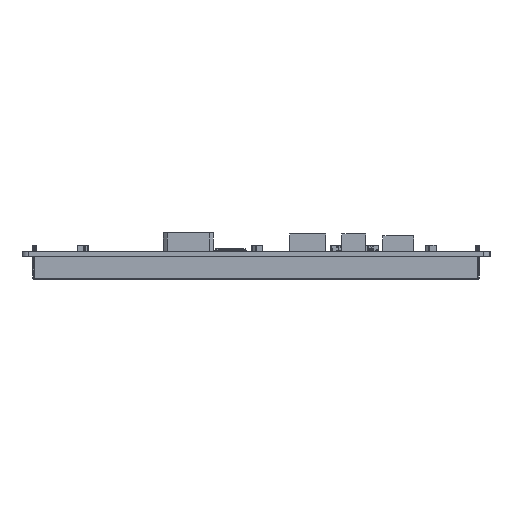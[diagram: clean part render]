
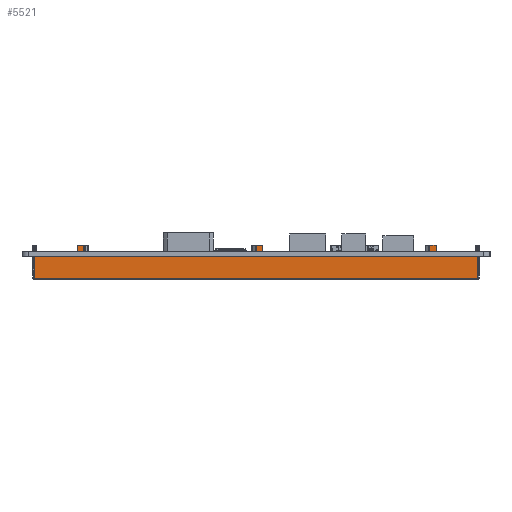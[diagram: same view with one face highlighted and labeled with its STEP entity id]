
A CAD part, left-side view. The second image highlights one B-rep face of the part: STEP entity #5521.
In plain terms, the highlighted planar face has unit normal (-1, 0, 0).
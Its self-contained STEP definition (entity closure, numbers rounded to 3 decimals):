
#5521=ADVANCED_FACE('',(#9663),#7430,.F.);
#7430=PLANE('',#51177);
#9663=FACE_OUTER_BOUND('',#12064,.T.);
#12064=EDGE_LOOP('',(#24423,#24424,#24425,#24426,#24427,#24428,#24429,#24430,
#24431,#24432,#24433,#24434,#24435,#24436,#24437,#24438,#24439,#24440,#24441,
#24442,#24443,#24444));
#24423=ORIENTED_EDGE('',*,*,#36199,.F.);
#24424=ORIENTED_EDGE('',*,*,#36200,.T.);
#24425=ORIENTED_EDGE('',*,*,#36201,.T.);
#24426=ORIENTED_EDGE('',*,*,#36196,.T.);
#24427=ORIENTED_EDGE('',*,*,#36202,.F.);
#24428=ORIENTED_EDGE('',*,*,#36203,.F.);
#24429=ORIENTED_EDGE('',*,*,#36204,.T.);
#24430=ORIENTED_EDGE('',*,*,#36205,.T.);
#24431=ORIENTED_EDGE('',*,*,#36206,.T.);
#24432=ORIENTED_EDGE('',*,*,#36192,.T.);
#24433=ORIENTED_EDGE('',*,*,#36207,.F.);
#24434=ORIENTED_EDGE('',*,*,#36208,.F.);
#24435=ORIENTED_EDGE('',*,*,#36209,.T.);
#24436=ORIENTED_EDGE('',*,*,#36210,.T.);
#24437=ORIENTED_EDGE('',*,*,#36211,.T.);
#24438=ORIENTED_EDGE('',*,*,#36188,.T.);
#24439=ORIENTED_EDGE('',*,*,#36212,.F.);
#24440=ORIENTED_EDGE('',*,*,#36213,.T.);
#24441=ORIENTED_EDGE('',*,*,#36214,.F.);
#24442=ORIENTED_EDGE('',*,*,#36215,.F.);
#24443=ORIENTED_EDGE('',*,*,#36216,.T.);
#24444=ORIENTED_EDGE('',*,*,#36186,.T.);
#29699=VERTEX_POINT('',#76251);
#29701=VERTEX_POINT('',#76255);
#29702=VERTEX_POINT('',#76259);
#29704=VERTEX_POINT('',#76262);
#29706=VERTEX_POINT('',#76268);
#29708=VERTEX_POINT('',#76271);
#29710=VERTEX_POINT('',#76277);
#29712=VERTEX_POINT('',#76280);
#29714=VERTEX_POINT('',#76286);
#29715=VERTEX_POINT('',#76288);
#29716=VERTEX_POINT('',#76291);
#29717=VERTEX_POINT('',#76293);
#29718=VERTEX_POINT('',#76295);
#29719=VERTEX_POINT('',#76297);
#29720=VERTEX_POINT('',#76300);
#29721=VERTEX_POINT('',#76302);
#29722=VERTEX_POINT('',#76304);
#29723=VERTEX_POINT('',#76306);
#29724=VERTEX_POINT('',#76309);
#29725=VERTEX_POINT('',#76311);
#29726=VERTEX_POINT('',#76313);
#29727=VERTEX_POINT('',#76315);
#36186=EDGE_CURVE('',#29699,#29701,#42060,.T.);
#36188=EDGE_CURVE('',#29704,#29702,#42062,.T.);
#36192=EDGE_CURVE('',#29708,#29706,#42066,.T.);
#36196=EDGE_CURVE('',#29712,#29710,#42070,.T.);
#36199=EDGE_CURVE('',#29714,#29701,#42073,.T.);
#36200=EDGE_CURVE('',#29714,#29715,#42074,.T.);
#36201=EDGE_CURVE('',#29715,#29712,#42075,.T.);
#36202=EDGE_CURVE('',#29716,#29710,#42076,.T.);
#36203=EDGE_CURVE('',#29717,#29716,#42077,.T.);
#36204=EDGE_CURVE('',#29717,#29718,#42078,.T.);
#36205=EDGE_CURVE('',#29718,#29719,#42079,.T.);
#36206=EDGE_CURVE('',#29719,#29708,#42080,.T.);
#36207=EDGE_CURVE('',#29720,#29706,#42081,.T.);
#36208=EDGE_CURVE('',#29721,#29720,#42082,.T.);
#36209=EDGE_CURVE('',#29721,#29722,#42083,.T.);
#36210=EDGE_CURVE('',#29722,#29723,#42084,.T.);
#36211=EDGE_CURVE('',#29723,#29704,#42085,.T.);
#36212=EDGE_CURVE('',#29724,#29702,#42086,.T.);
#36213=EDGE_CURVE('',#29724,#29725,#42087,.T.);
#36214=EDGE_CURVE('',#29726,#29725,#42088,.T.);
#36215=EDGE_CURVE('',#29727,#29726,#42089,.T.);
#36216=EDGE_CURVE('',#29727,#29699,#42090,.T.);
#42060=LINE('',#76256,#47806);
#42062=LINE('',#76261,#47808);
#42066=LINE('',#76270,#47812);
#42070=LINE('',#76279,#47816);
#42073=LINE('',#76285,#47819);
#42074=LINE('',#76287,#47820);
#42075=LINE('',#76289,#47821);
#42076=LINE('',#76290,#47822);
#42077=LINE('',#76292,#47823);
#42078=LINE('',#76294,#47824);
#42079=LINE('',#76296,#47825);
#42080=LINE('',#76298,#47826);
#42081=LINE('',#76299,#47827);
#42082=LINE('',#76301,#47828);
#42083=LINE('',#76303,#47829);
#42084=LINE('',#76305,#47830);
#42085=LINE('',#76307,#47831);
#42086=LINE('',#76308,#47832);
#42087=LINE('',#76310,#47833);
#42088=LINE('',#76312,#47834);
#42089=LINE('',#76314,#47835);
#42090=LINE('',#76316,#47836);
#47806=VECTOR('',#62446,1.);
#47808=VECTOR('',#62450,1.);
#47812=VECTOR('',#62456,1.);
#47816=VECTOR('',#62462,1.);
#47819=VECTOR('',#62467,1.);
#47820=VECTOR('',#62468,1.);
#47821=VECTOR('',#62469,1.);
#47822=VECTOR('',#62470,1.);
#47823=VECTOR('',#62471,1.);
#47824=VECTOR('',#62472,1.);
#47825=VECTOR('',#62473,1.);
#47826=VECTOR('',#62474,1.);
#47827=VECTOR('',#62475,1.);
#47828=VECTOR('',#62476,1.);
#47829=VECTOR('',#62477,1.);
#47830=VECTOR('',#62478,1.);
#47831=VECTOR('',#62479,1.);
#47832=VECTOR('',#62480,1.);
#47833=VECTOR('',#62481,1.);
#47834=VECTOR('',#62482,1.);
#47835=VECTOR('',#62483,1.);
#47836=VECTOR('',#62484,1.);
#51177=AXIS2_PLACEMENT_3D('',#76317,#62485,#62486);
#62446=DIRECTION('',(0.,1.,0.));
#62450=DIRECTION('',(0.,1.,0.));
#62456=DIRECTION('',(0.,1.,0.));
#62462=DIRECTION('',(0.,1.,0.));
#62467=DIRECTION('',(0.,0.,1.));
#62468=DIRECTION('',(0.,-1.,0.));
#62469=DIRECTION('',(0.,0.,1.));
#62470=DIRECTION('',(0.,0.,-1.));
#62471=DIRECTION('',(0.,-1.,0.));
#62472=DIRECTION('',(0.,0.,-1.));
#62473=DIRECTION('',(0.,-1.,0.));
#62474=DIRECTION('',(0.,0.,-1.));
#62475=DIRECTION('',(0.,0.,-1.));
#62476=DIRECTION('',(0.,-1.,0.));
#62477=DIRECTION('',(0.,0.,-1.));
#62478=DIRECTION('',(0.,-1.,0.));
#62479=DIRECTION('',(0.,0.,-1.));
#62480=DIRECTION('',(0.,0.,-1.));
#62481=DIRECTION('',(0.,-1.,0.));
#62482=DIRECTION('',(0.,0.,-1.));
#62483=DIRECTION('',(0.,-1.,0.));
#62484=DIRECTION('',(0.,0.,-1.));
#62485=DIRECTION('',(1.,0.,0.));
#62486=DIRECTION('',(0.,-1.,0.));
#76251=CARTESIAN_POINT('',(-84.85,60.795,-1.6));
#76255=CARTESIAN_POINT('',(-84.85,74.48,-1.6));
#76256=CARTESIAN_POINT('',(-84.85,-66.52,-1.6));
#76259=CARTESIAN_POINT('',(-84.85,58.795,-1.6));
#76261=CARTESIAN_POINT('',(-84.85,-66.52,-1.6));
#76262=CARTESIAN_POINT('',(-84.85,3.795,-1.6));
#76268=CARTESIAN_POINT('',(-84.85,1.795,-1.6));
#76270=CARTESIAN_POINT('',(-84.85,-66.52,-1.6));
#76271=CARTESIAN_POINT('',(-84.85,-51.325,-1.6));
#76277=CARTESIAN_POINT('',(-84.85,-53.325,-1.6));
#76279=CARTESIAN_POINT('',(-84.85,-66.52,-1.6));
#76280=CARTESIAN_POINT('',(-84.85,-66.52,-1.6));
#76285=CARTESIAN_POINT('',(-84.85,74.48,-8.8));
#76286=CARTESIAN_POINT('',(-84.85,74.48,-8.4));
#76287=CARTESIAN_POINT('',(-84.85,-66.52,-8.4));
#76288=CARTESIAN_POINT('',(-84.85,-66.52,-8.4));
#76289=CARTESIAN_POINT('',(-84.85,-66.52,-8.8));
#76290=CARTESIAN_POINT('',(-84.85,-53.325,2.));
#76291=CARTESIAN_POINT('',(-84.85,-53.325,2.));
#76292=CARTESIAN_POINT('',(-84.85,-51.243,2.));
#76293=CARTESIAN_POINT('',(-84.85,-51.243,2.));
#76294=CARTESIAN_POINT('',(-84.85,-51.243,2.));
#76295=CARTESIAN_POINT('',(-84.85,-51.243,0.));
#76296=CARTESIAN_POINT('',(-84.85,-51.243,0.));
#76297=CARTESIAN_POINT('',(-84.85,-51.325,0.));
#76298=CARTESIAN_POINT('',(-84.85,-51.325,0.));
#76299=CARTESIAN_POINT('',(-84.85,1.795,2.));
#76300=CARTESIAN_POINT('',(-84.85,1.795,2.));
#76301=CARTESIAN_POINT('',(-84.85,3.877,2.));
#76302=CARTESIAN_POINT('',(-84.85,3.877,2.));
#76303=CARTESIAN_POINT('',(-84.85,3.877,2.));
#76304=CARTESIAN_POINT('',(-84.85,3.877,0.));
#76305=CARTESIAN_POINT('',(-84.85,3.877,0.));
#76306=CARTESIAN_POINT('',(-84.85,3.795,0.));
#76307=CARTESIAN_POINT('',(-84.85,3.795,0.));
#76308=CARTESIAN_POINT('',(-84.85,58.795,0.));
#76309=CARTESIAN_POINT('',(-84.85,58.795,0.));
#76310=CARTESIAN_POINT('',(-84.85,60.795,0.));
#76311=CARTESIAN_POINT('',(-84.85,58.713,0.));
#76312=CARTESIAN_POINT('',(-84.85,58.713,2.));
#76313=CARTESIAN_POINT('',(-84.85,58.713,2.));
#76314=CARTESIAN_POINT('',(-84.85,60.795,2.));
#76315=CARTESIAN_POINT('',(-84.85,60.795,2.));
#76316=CARTESIAN_POINT('',(-84.85,60.795,2.));
#76317=CARTESIAN_POINT('',(-84.85,-66.52,-8.8));
